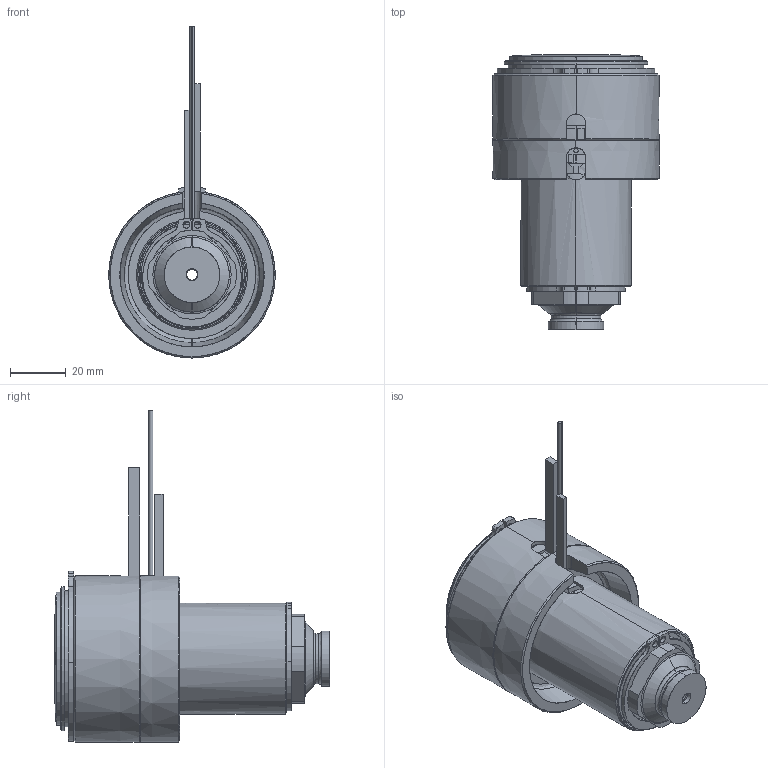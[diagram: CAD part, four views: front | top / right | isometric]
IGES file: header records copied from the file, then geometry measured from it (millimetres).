
Start section: SolidWorks IGES file using analytic representation for surfaces
Global section: file name: C:\Documents and Settings\ws-20\Desktop\TEM\UGER6602-M-A-0 [Øb-3.9 P-0 ØC-16].IGS; native system: SolidWorks 2012; preprocessor: SolidWorks 2012; author: ws-20; date: 120417.123239; units: millimetre
Bounding box: 60 x 99.25 x 119.65 mm (x, y, z)
Surface area: 59644.4 mm2 (no closed solid volume)
Topology: 0 solids, 0 shells, 172 faces, 3350 edges, 3350 vertices
Faces by surface type: revolution 102, bspline 70
